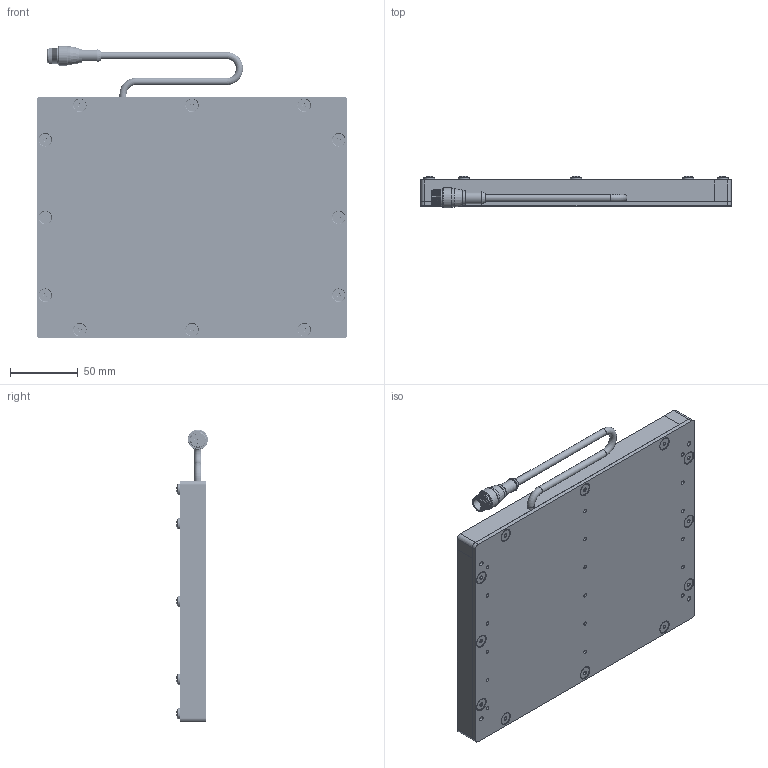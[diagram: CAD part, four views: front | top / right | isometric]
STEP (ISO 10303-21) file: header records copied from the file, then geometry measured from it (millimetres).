
FILE_DESCRIPTION (( 'STEP AP214' ), '1' );
FILE_NAME ('SBL68-XXX.STEP', '2026-04-17T19:22:45', ( '' ), ( '' ), 'SwSTEP 2.0', 'SolidWorks 2025', '' );
FILE_SCHEMA (( 'AUTOMOTIVE_DESIGN' ));
Length unit declared in the file: inch
Products named in the file (12): SC Pigtail Complete 18_5pin; 8-32 x .375 Nylon Screw_.375" 94611A192; Hex Standoff .375 x 8-32; SBL68-XXX; SBL3 to 18in rail_06in No CG; 8-32 x 0.375 FHCS (92210A192)_92210A192; SBL3 to 18in rail_08in rail; WD-SBLYYXX_6x8 with holes; MC Pigtail 24; SBL3 to 18in rail_08in No CG; BackPlate BLYYXX_0608; M12 Connector 4,5 and 8 pin_RS4.5T
Assembly tree (45 placements, depth 3):
  SBL68-XXX
    BackPlate BLYYXX_0608
    SBL3 to 18in rail_08in rail
    SBL3 to 18in rail_08in No CG
    SBL3 to 18in rail_06in No CG  x2
    SC Pigtail Complete 18_5pin
      MC Pigtail 24
      M12 Connector 4,5 and 8 pin_RS4.5T
    WD-SBLYYXX_6x8 with holes
    Hex Standoff .375 x 8-32  x12
    8-32 x 0.375 FHCS (92210A192)_92210A192  x12
    8-32 x .375 Nylon Screw_.375" 94611A192  x12
Bounding box: 228.6 x 23.38 x 215.33 mm (x, y, z)
Volume: 377811.2 mm3; surface area: 232953.2 mm2
Topology: 44 solids, 44 shells, 1388 faces, 3454 edges, 2203 vertices
Faces by surface type: plane 521, bspline 324, cylinder 290, cone 211, torus 25, sphere 17
Full cylindrical faces by diameter (mm): 0.762 x5, 2.705 x18, 3.454 x16, 4.496 x36, 5.207 x3, 6.604 x8, 6.858 x12, 8.128 x12, 8.382 x1, 8.636 x1, 9.119 x12, 10.16 x1, 10.541 x1, 11.938 x1, 13.716 x2, 14.732 x1
Entity records: 17905 total; most frequent: CARTESIAN_POINT 5952, DIRECTION 2191, ORIENTED_EDGE 1860, EDGE_CURVE 930, AXIS2_PLACEMENT_3D 897, EDGE_LOOP 715, VERTEX_POINT 687, FACE_OUTER_BOUND 529
